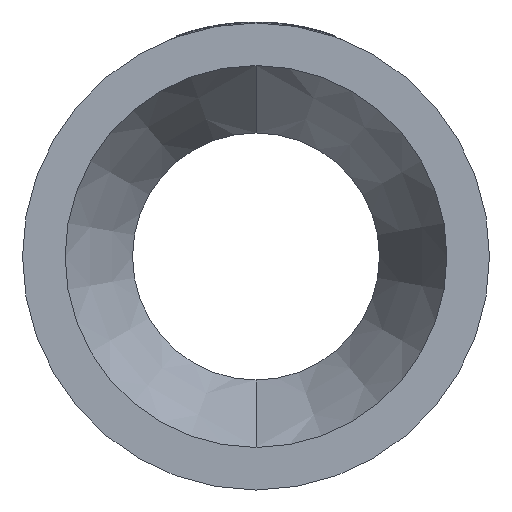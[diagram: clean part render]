
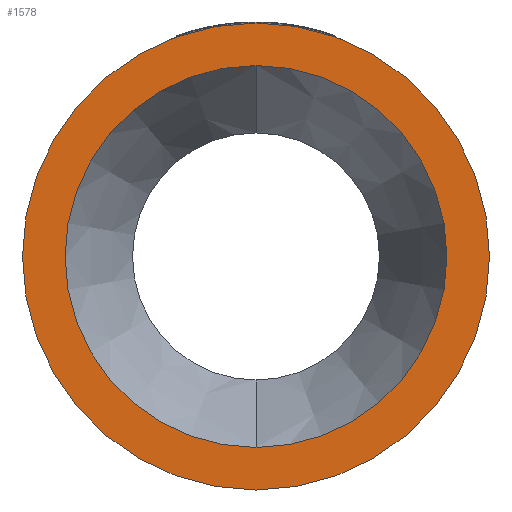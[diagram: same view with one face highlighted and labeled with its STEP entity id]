
A CAD part, left-side view. The second image highlights one B-rep face of the part: STEP entity #1578.
In plain terms, the highlighted planar face has unit normal (-1, 0, 0).
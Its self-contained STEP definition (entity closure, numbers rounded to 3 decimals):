
#1 = DIRECTION ( 'NONE',  ( -1., 0., 0. ) ) ;
#40 = DIRECTION ( 'NONE',  ( 1., 0., 0. ) ) ;
#52 = CARTESIAN_POINT ( 'NONE',  ( 0., 92., 0. ) ) ;
#122 = PLANE ( 'NONE',  #2690 ) ;
#246 = EDGE_CURVE ( 'NONE', #3484, #1952, #2979, .T. ) ;
#265 = EDGE_CURVE ( 'NONE', #2157, #1194, #3010, .T. ) ;
#416 = CARTESIAN_POINT ( 'NONE',  ( 0., 0., 92. ) ) ;
#511 = DIRECTION ( 'NONE',  ( 0., 0., -1. ) ) ;
#663 = AXIS2_PLACEMENT_3D ( 'NONE', #2170, #2149, #2145 ) ;
#922 = CIRCLE ( 'NONE', #663, 92. ) ;
#1098 = DIRECTION ( 'NONE',  ( -1., 0., 0. ) ) ;
#1106 = AXIS2_PLACEMENT_3D ( 'NONE', #2555, #1098, #2540 ) ;
#1148 = EDGE_CURVE ( 'NONE', #1194, #2157, #2924, .T. ) ;
#1194 = VERTEX_POINT ( 'NONE', #2538 ) ;
#1253 = DIRECTION ( 'NONE',  ( 0., 0., 1. ) ) ;
#1284 = FACE_BOUND ( 'NONE', #3491, .T. ) ;
#1417 = FACE_OUTER_BOUND ( 'NONE', #2592, .T. ) ;
#1578 = ADVANCED_FACE ( 'NONE', ( #1284, #1417 ), #122, .F. ) ;
#1810 = DIRECTION ( 'NONE',  ( 0., 0., 1. ) ) ;
#1936 = CARTESIAN_POINT ( 'NONE',  ( 0., 0., 0. ) ) ;
#1952 = VERTEX_POINT ( 'NONE', #2846 ) ;
#1971 = AXIS2_PLACEMENT_3D ( 'NONE', #1936, #2373, #1810 ) ;
#2038 = CARTESIAN_POINT ( 'NONE',  ( 0., 0., -112.5 ) ) ;
#2145 = DIRECTION ( 'NONE',  ( 0., 0., 1. ) ) ;
#2149 = DIRECTION ( 'NONE',  ( -1., 0., 0. ) ) ;
#2157 = VERTEX_POINT ( 'NONE', #2038 ) ;
#2170 = CARTESIAN_POINT ( 'NONE',  ( 0., 0., 0. ) ) ;
#2316 = AXIS2_PLACEMENT_3D ( 'NONE', #3428, #1, #1253 ) ;
#2373 = DIRECTION ( 'NONE',  ( -1., 0., 0. ) ) ;
#2538 = CARTESIAN_POINT ( 'NONE',  ( 0., 0., 112.5 ) ) ;
#2540 = DIRECTION ( 'NONE',  ( 0., 0., 1. ) ) ;
#2555 = CARTESIAN_POINT ( 'NONE',  ( 0., 0., 0. ) ) ;
#2592 = EDGE_LOOP ( 'NONE', ( #3214, #3218 ) ) ;
#2690 = AXIS2_PLACEMENT_3D ( 'NONE', #52, #40, #511 ) ;
#2806 = EDGE_CURVE ( 'NONE', #1952, #3484, #922, .T. ) ;
#2846 = CARTESIAN_POINT ( 'NONE',  ( 0., 0., -92. ) ) ;
#2895 = ORIENTED_EDGE ( 'NONE', *, *, #246, .F. ) ;
#2924 = CIRCLE ( 'NONE', #1106, 112.5 ) ;
#2979 = CIRCLE ( 'NONE', #2316, 92. ) ;
#3010 = CIRCLE ( 'NONE', #1971, 112.5 ) ;
#3178 = ORIENTED_EDGE ( 'NONE', *, *, #2806, .F. ) ;
#3214 = ORIENTED_EDGE ( 'NONE', *, *, #1148, .T. ) ;
#3218 = ORIENTED_EDGE ( 'NONE', *, *, #265, .T. ) ;
#3428 = CARTESIAN_POINT ( 'NONE',  ( 0., 0., 0. ) ) ;
#3484 = VERTEX_POINT ( 'NONE', #416 ) ;
#3491 = EDGE_LOOP ( 'NONE', ( #2895, #3178 ) ) ;
